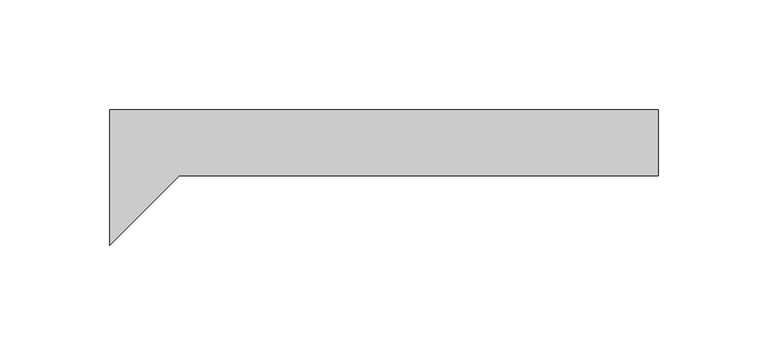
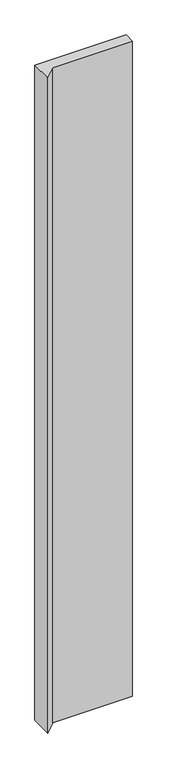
"""IFC4 building model written with IfcOpenShell, lengths in millimetres: plate geometry, ATELIERS 3S_EPURE CDB 250_VERTICAL : AZURO."""

from ifc_helpers import new_model, si_unit, origin, origin_with_axes, place, context, project, spatial, polyline, outline, extrude, source, transform, mapped, element, save


def plate_63a46ef3(model_context):
    return source(origin(), model_context, "Body", "SweptSolid", [
        extrude(outline(polyline([(124.9999998, -29.9980469), (-93.292885, -29.9980469), (-125.0000002, -61.705162), (-125.0000002, 0.0), (124.9999998, 0.0), (124.9999998, -29.9980469)])), origin_with_axes(), (0.0, 0.0, 1.0), 1900.0),
    ])


if __name__ == "__main__":
    model = new_model("IFC4")
    model_context = context("Model", 3, world=origin())
    ifc_project = project(units=[si_unit("LENGTHUNIT", "METRE", prefix="MILLI")], contexts=[model_context])
    site = spatial("IfcSite", under=ifc_project)
    building = spatial("IfcBuilding", under=site)
    placement = place(None, origin())
    plate_shape = plate_63a46ef3(model_context)
    element("IfcPlate", 1, ObjectType="ATELIERS 3S_EPURE CDB 250_VERTICAL : AZURO", at=placement, inside=building, context=model_context, shape_type="MappedRepresentation", body=[
        mapped(plate_shape, transform((0.0, 0.0, 0.0), x_axis=(1.0, 0.0, 0.0), y_axis=(0.0, 1.0, 0.0), z_axis=(0.0, 0.0, 1.0))),
    ])
    save(model, "model.ifc")
